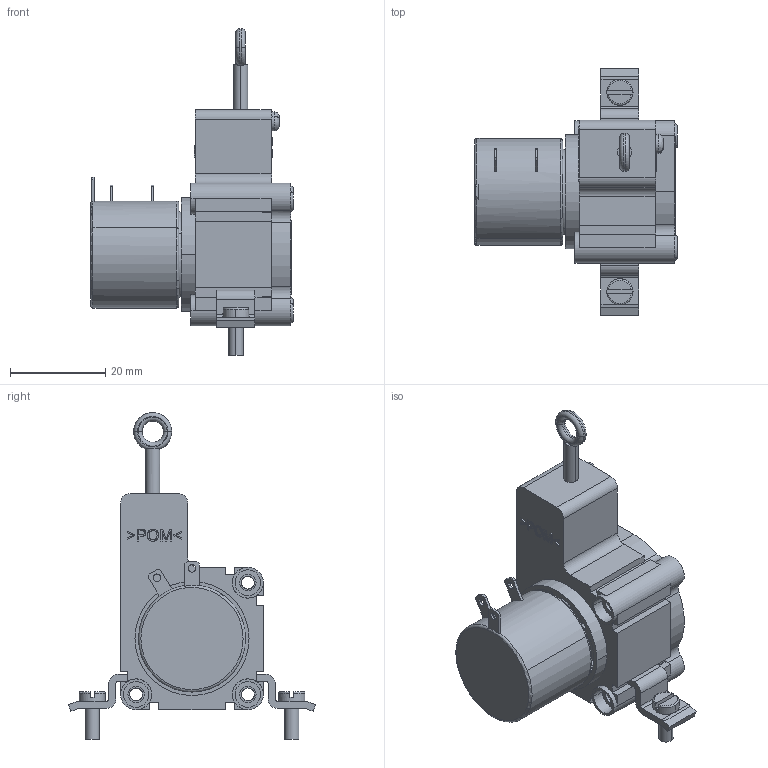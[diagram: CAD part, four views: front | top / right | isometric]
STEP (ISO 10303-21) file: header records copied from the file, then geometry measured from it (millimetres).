
FILE_DESCRIPTION((''),'2;1');
FILE_NAME('','2007-03-15T',(''),(''),'PRO/ENGINEER BY PARAMETRIC TECHNOLOGY CORPORATION, 2003250','PRO/ENGINEER BY PARAMETRIC TECHNOLOGY CORPORATION, 2003250','');
FILE_SCHEMA(('CONFIG_CONTROL_DESIGN'));
Length unit declared in the file: millimetre
Bounding box: 42.65 x 52 x 68.7 mm (x, y, z)
Volume: 18019 mm3; surface area: 14253.2 mm2
Topology: 1 solids, 7 shells, 690 faces, 1901 edges, 1275 vertices
Faces by surface type: plane 351, cylinder 185, extrusion 124, torus 24, cone 4, bspline 2
Entity records: 23551 total; most frequent: CARTESIAN_POINT 5896, ORIENTED_EDGE 3802, DIRECTION 3416, EDGE_CURVE 1901, VERTEX_POINT 1275, AXIS2_PLACEMENT_3D 1140, VECTOR 1136, LINE 1012
